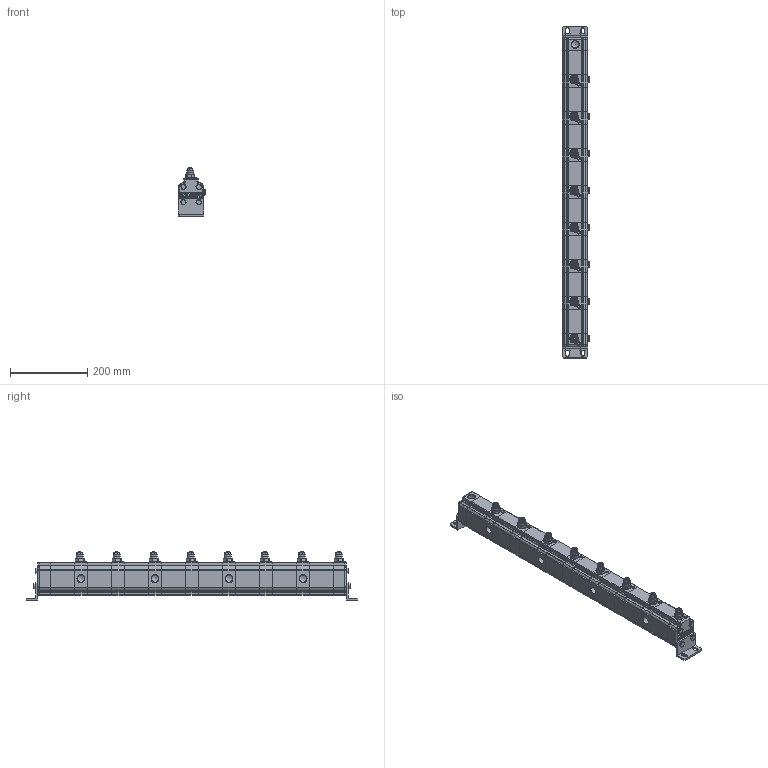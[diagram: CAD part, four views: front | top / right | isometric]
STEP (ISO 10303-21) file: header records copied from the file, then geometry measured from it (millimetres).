
FILE_DESCRIPTION(/* description */ ('Unknown'),/* implementation_level */ '2;1');
FILE_NAME(/* name */ '9RV08-32',/* time_stamp */ '2020-04-15T19:48:21+02:00',/* author */ ('Unknown'),/* organization */ ('Unknown'),/* preprocessor_version */ 'ST-DEVELOPER v16.7',/* originating_system */ 'DEX',/* authorisation */ $);
FILE_SCHEMA (('AUTOMOTIVE_DESIGN {1 0 10303 214 3 1 1}'));
Products named in the file (1): RV-1V
Bounding box: 70.5 x 861 x 124.5 mm (x, y, z)
Volume: 3949197.5 mm3; surface area: 276260.3 mm2
Topology: 1 solids, 1 shells, 1962 faces, 5218 edges, 3365 vertices
Faces by surface type: cylinder 834, plane 806, cone 226, bspline 64, torus 32
Full cylindrical faces by diameter (mm): 8 x8, 8.57 x8, 12 x8, 14 x8, 14.1 x8, 14.95 x16, 17 x8, 18 x8, 18.631 x10, 22 x8
Entity records: 85918 total; most frequent: CARTESIAN_POINT 23897, DIRECTION 10267, ORIENTED_EDGE 9908, EDGE_CURVE 4954, AXIS2_PLACEMENT_3D 3847, VERTEX_POINT 3302, LINE 2573, VECTOR 2573
